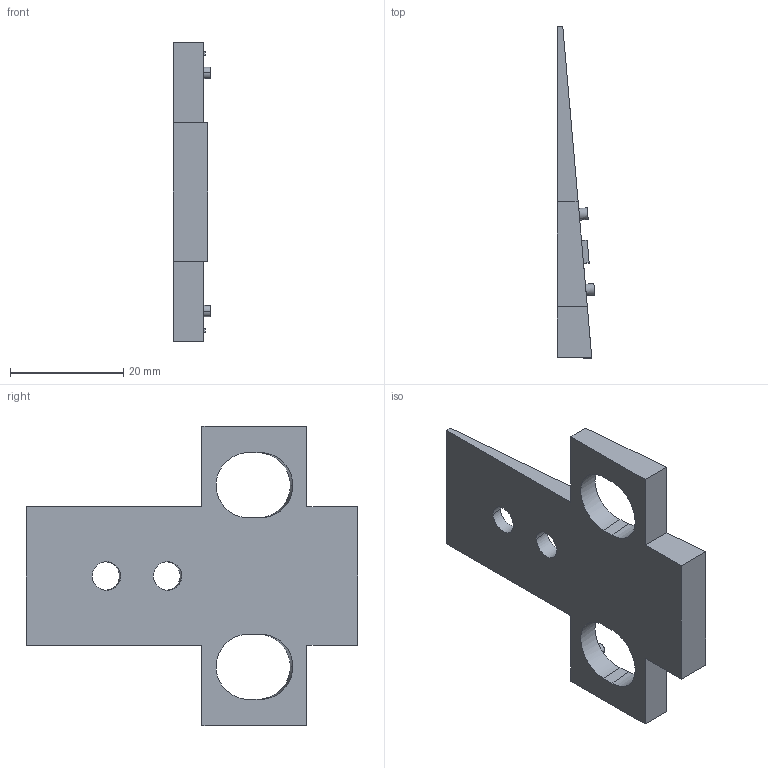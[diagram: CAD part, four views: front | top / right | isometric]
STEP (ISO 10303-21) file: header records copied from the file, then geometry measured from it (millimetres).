
FILE_DESCRIPTION (( 'STEP AP214' ), '1' );
FILE_NAME ('Kreuz Winkelkeil -5Grad_136632.STEP', '2010-11-18T09:33:57', ( 'grass' ), ( '' ), 'SwSTEP 2.0', 'SolidWorks 2010', '' );
FILE_SCHEMA (( 'AUTOMOTIVE_DESIGN' ));
Length unit declared in the file: millimetre
Products named in the file (1): Kreuz Winkelkeil -5Grad_136632
Bounding box: 6.64 x 58.5 x 52.8 mm (x, y, z)
Volume: 6189.5 mm3; surface area: 4692.3 mm2
Topology: 1 solids, 1 shells, 58 faces, 147 edges, 98 vertices
Faces by surface type: plane 40, cylinder 18
Entity records: 1787 total; most frequent: CARTESIAN_POINT 334, ORIENTED_EDGE 294, DIRECTION 281, EDGE_CURVE 147, VECTOR 111, LINE 111, VERTEX_POINT 98, AXIS2_PLACEMENT_3D 85
